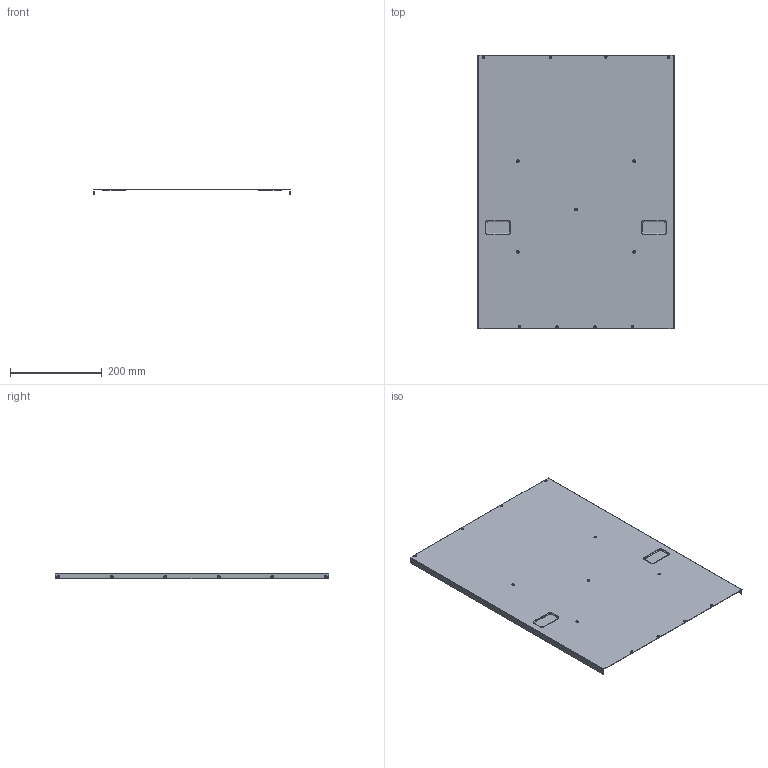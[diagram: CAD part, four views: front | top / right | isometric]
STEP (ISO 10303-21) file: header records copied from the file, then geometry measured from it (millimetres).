
FILE_DESCRIPTION((''),'2;1');
FILE_NAME('\\mtlfs01\svhome\Mechanic\NEPTUNE\NEPTUNE LONG - 27in\HELP FILES\MEC008319_02.stp','2014-07-12T21:29:27',('andreyg'),(''),'Autodesk Inventor 2013','Autodesk Inventor 2013','');
FILE_SCHEMA(('AUTOMOTIVE_DESIGN { 1 0 10303 214 1 1 1 1 }'));
Length unit declared in the file: millimetre
Products named in the file (1): MEC008319_NEPTUNE TOP COVER LONG
Bounding box: 428 x 596.2 x 13 mm (x, y, z)
Volume: 268245.7 mm3; surface area: 539368.9 mm2
Topology: 1 solids, 1 shells, 127 faces, 340 edges, 219 vertices
Faces by surface type: plane 42, cone 41, cylinder 28, torus 16
Entity records: 3780 total; most frequent: DIRECTION 700, CARTESIAN_POINT 612, ORIENTED_EDGE 580, EDGE_CURVE 290, AXIS2_PLACEMENT_3D 282, EDGE_LOOP 206, VERTEX_POINT 194, CIRCLE 154
